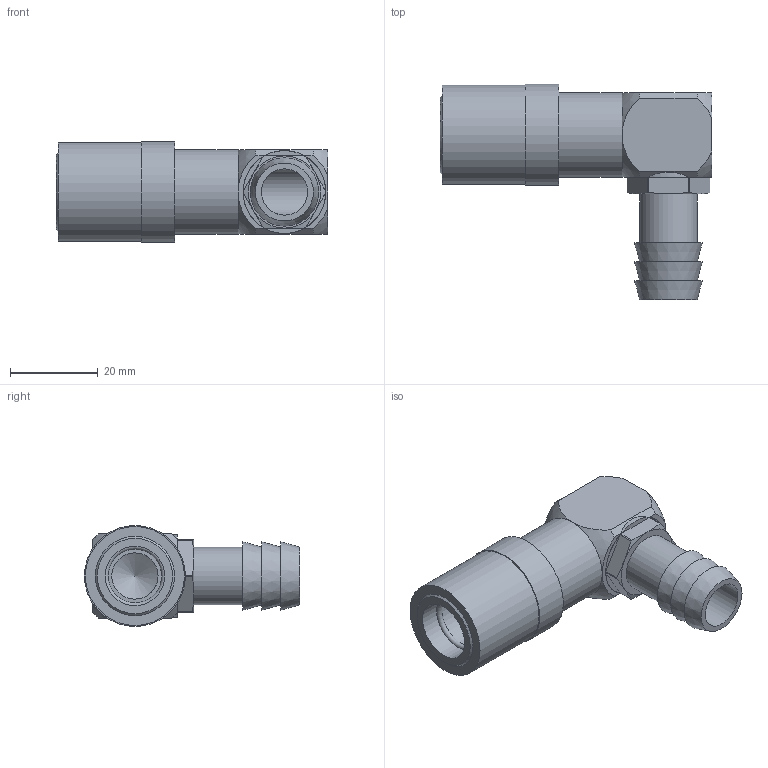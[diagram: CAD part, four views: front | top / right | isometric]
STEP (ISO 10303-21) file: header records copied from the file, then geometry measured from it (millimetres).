
FILE_DESCRIPTION(/* description */ ('STEP AP214'),/* implementation_level */ '2;1');
FILE_NAME(/* name */ 'JS-318-V',/* time_stamp */ '2024-12-19T08:41:48+01:00',/* author */ ('License CC BY-ND 4.0'),/* organization */ ('CADENAS'),/* preprocessor_version */ 'ST-DEVELOPER v19.3',/* originating_system */ 'PARTsolutions',/* authorisation */ ' ');
FILE_SCHEMA (('AUTOMOTIVE_DESIGN {1 0 10303 214 3 1 1}'));
Length unit declared in the file: inch
Products named in the file (1): JS-318-V
Bounding box: 62.07 x 49.12 x 23.06 mm (x, y, z)
Volume: 18159.8 mm3; surface area: 9708.4 mm2
Topology: 1 solids, 1 shells, 61 faces, 143 edges, 92 vertices
Faces by surface type: plane 32, cone 11, cylinder 9, sphere 8, torus 1
Full cylindrical faces by diameter (mm): 10.566 x2, 13.208 x1, 13.564 x2, 18.913 x1, 19.304 x1, 22.606 x1, 23.058 x1
Entity records: 1718 total; most frequent: CARTESIAN_POINT 317, DIRECTION 312, ORIENTED_EDGE 248, AXIS2_PLACEMENT_3D 140, EDGE_CURVE 124, VERTEX_POINT 89, FACE_BOUND 87, EDGE_LOOP 86
